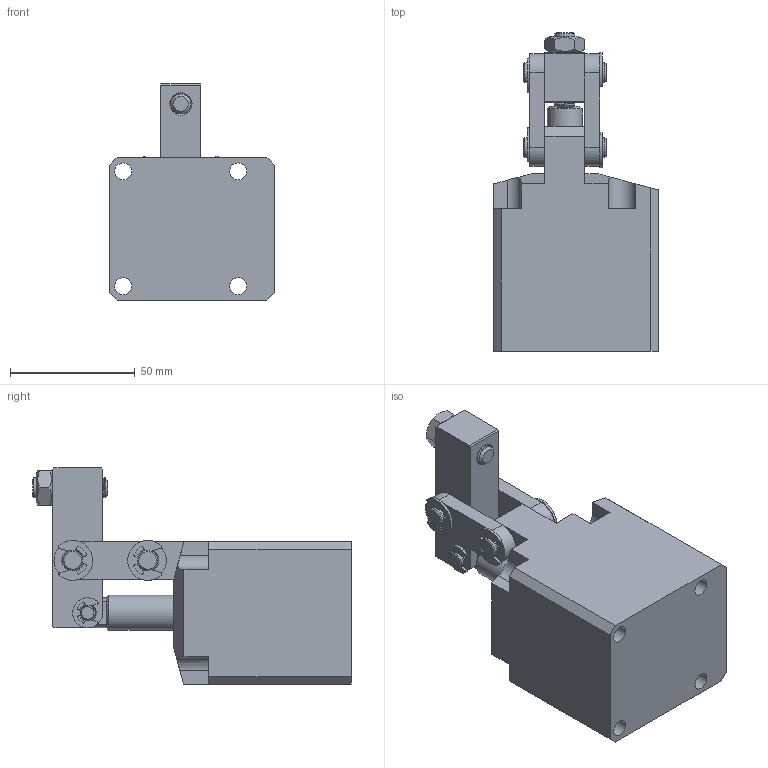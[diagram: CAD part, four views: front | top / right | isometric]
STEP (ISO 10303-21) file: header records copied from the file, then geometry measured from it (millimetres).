
FILE_DESCRIPTION(/* description */ ('STEP AP214'),/* implementation_level */ '2;1');
FILE_NAME(/* name */ 'D:\Vault_2016\Projekty\Clamptek\Hydraulic\CBLU\CBLU-35\STEP\CBLU-35L.stp',/* time_stamp */ '2021-05-06T12:30:33+02:00',/* author */ ('user'),/* organization */ (''),/* preprocessor_version */ 'ST-DEVELOPER v18.1',/* originating_system */ 'Autodesk Inventor 2021',/* authorisation */ '');
FILE_SCHEMA (('AUTOMOTIVE_DESIGN { 1 0 10303 214 3 1 1 }'));
Length unit declared in the file: millimetre
Products named in the file (11): CBLU-35L; ±¾ÌåCL_1_1_1_1; »îÈû¸Ë_2_1_1_1; Á¬¸Ë_2_1; 35Ñ¹±Û; ¶ÌÏúÖá_2_1; ³¤ÏúÖá_2_1; e rings gb_GB_CONNECTING_PIECE_RINGS_HR 6_2_1; e rings gb_GB_CONNECTING_PIECE_RINGS_HR 8_2_1; ÂÝË¿2_2; M8ÂÝÄ¸2
Assembly tree (16 placements, depth 2):
  CBLU-35L
    ±¾ÌåCL_1_1_1_1
    »îÈû¸Ë_2_1_1_1
    Á¬¸Ë_2_1  x2
    35Ñ¹±Û
    ¶ÌÏúÖá_2_1
    ³¤ÏúÖá_2_1  x2
    e rings gb_GB_CONNECTING_PIECE_RINGS_HR 6_2_1  x2
    e rings gb_GB_CONNECTING_PIECE_RINGS_HR 8_2_1  x4
    ÂÝË¿2_2
    M8ÂÝÄ¸2
Bounding box: 66 x 127.5 x 86.5 mm (x, y, z)
Volume: 256066.1 mm3; surface area: 59564.6 mm2
Topology: 16 solids, 16 shells, 331 faces, 827 edges, 545 vertices
Faces by surface type: plane 148, cylinder 141, cone 34, bspline 8
Full cylindrical faces by diameter (mm): 2.5 x2, 3 x1, 5 x2, 6 x6, 6.8 x4, 7 x4, 8 x34, 14 x2, 35 x2
Entity records: 10578 total; most frequent: CARTESIAN_POINT 4572, DIRECTION 1182, ORIENTED_EDGE 1126, EDGE_CURVE 563, AXIS2_PLACEMENT_3D 441, VERTEX_POINT 370, LINE 300, VECTOR 300
